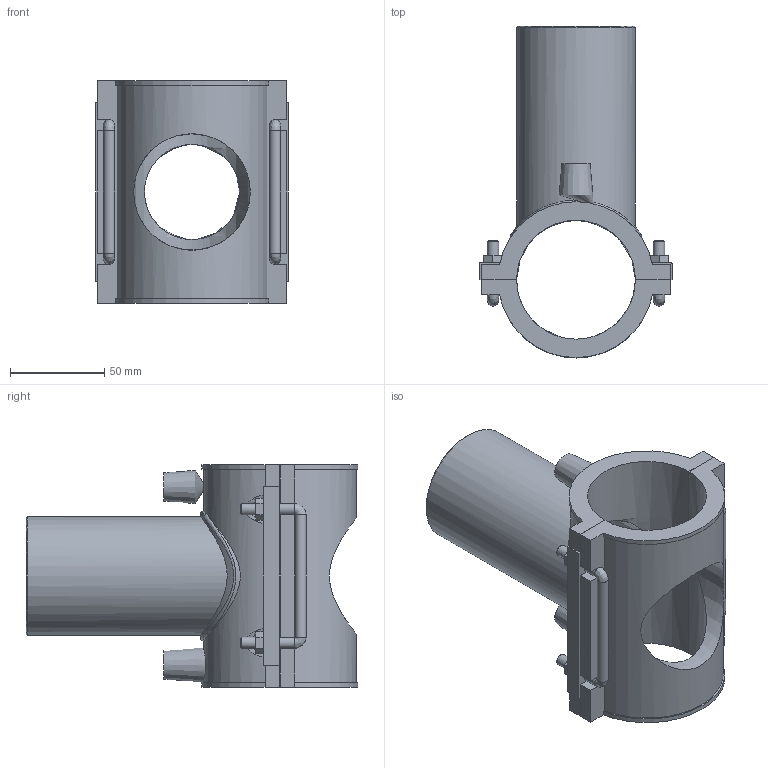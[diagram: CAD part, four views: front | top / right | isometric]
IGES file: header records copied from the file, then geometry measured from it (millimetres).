
Global section: file name: 495804063063.ipt; native system: Autodesk Inventor 2015; preprocessor: unknown; author: KIM; date: 20180426.120824; units: millimetre
Bounding box: 102 x 175.81 x 118 mm (x, y, z)
Volume: 355397.4 mm3; surface area: 108467 mm2
Topology: 2 solids, 2 shells, 134 faces, 345 edges, 218 vertices
Faces by surface type: plane 85, cylinder 23, revolution 10, bspline 9, cone 7
Full cylindrical faces by diameter (mm): 4 x2, 6 x10, 63 x1
